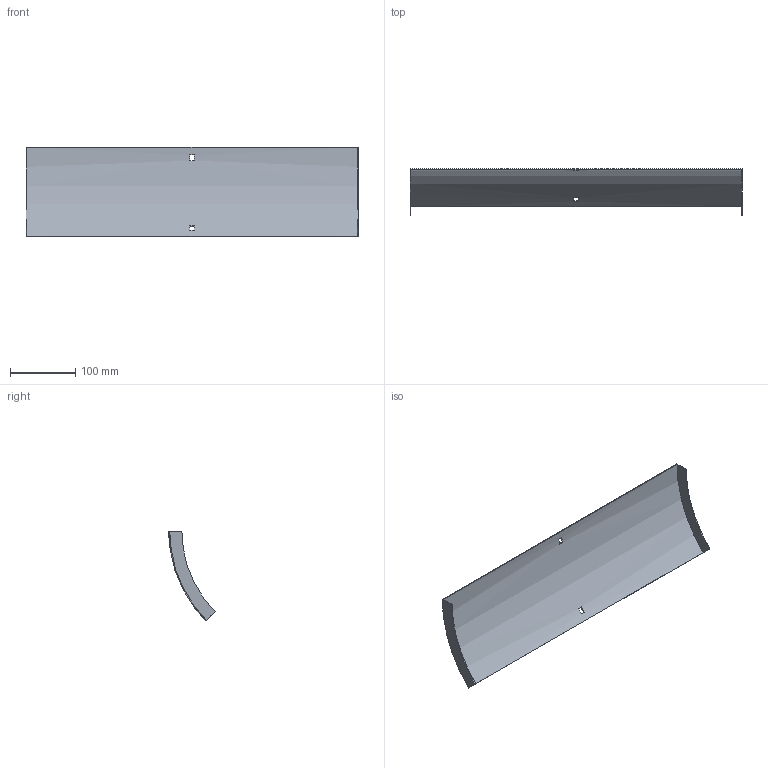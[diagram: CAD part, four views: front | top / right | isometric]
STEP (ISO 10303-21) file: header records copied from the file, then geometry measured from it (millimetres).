
FILE_DESCRIPTION (( 'STEP AP214' ), '1' );
FILE_NAME ('34N1I500.step', '2025-02-21T09:16:49', ( '' ), ( '' ), 'SwSTEP 2.0', 'SolidWorks 2023', '' );
FILE_SCHEMA (( 'AUTOMOTIVE_DESIGN' ));
Length unit declared in the file: millimetre
Products named in the file (1): 34N1I500
Bounding box: 507 x 70.96 x 137.18 mm (x, y, z)
Volume: 123239 mm3; surface area: 166455.7 mm2
Topology: 1 solids, 1 shells, 18 faces, 48 edges, 32 vertices
Faces by surface type: plane 14, cylinder 4
Entity records: 599 total; most frequent: DIRECTION 102, CARTESIAN_POINT 99, ORIENTED_EDGE 96, EDGE_CURVE 48, AXIS2_PLACEMENT_3D 35, VERTEX_POINT 32, VECTOR 32, LINE 32
